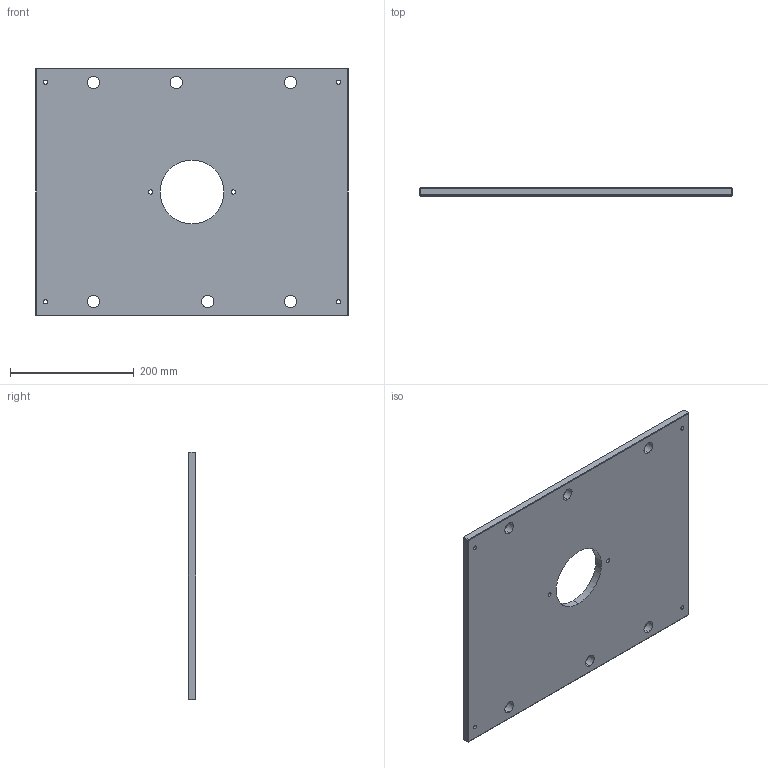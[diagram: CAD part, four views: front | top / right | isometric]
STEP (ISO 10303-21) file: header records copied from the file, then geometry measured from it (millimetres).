
FILE_DESCRIPTION (( 'STEP AP214' ), '1' );
FILE_NAME ('ME-0619-CH-1620-A.STEP', '2020-02-12T15:38:52', ( '' ), ( '' ), 'SwSTEP 2.0', 'SolidWorks 2018', '' );
FILE_SCHEMA (( 'AUTOMOTIVE_DESIGN' ));
Length unit declared in the file: inch
Products named in the file (1): ME-0619-CH-1620-A
Bounding box: 504.82 x 12.7 x 400.05 mm (x, y, z)
Volume: 2428090.1 mm3; surface area: 413634.9 mm2
Topology: 1 solids, 1 shells, 64 faces, 150 edges, 88 vertices
Faces by surface type: cylinder 26, plane 26, cone 12
Entity records: 1902 total; most frequent: DIRECTION 344, CARTESIAN_POINT 303, ORIENTED_EDGE 300, EDGE_CURVE 150, AXIS2_PLACEMENT_3D 129, EDGE_LOOP 90, VERTEX_POINT 88, LINE 86
